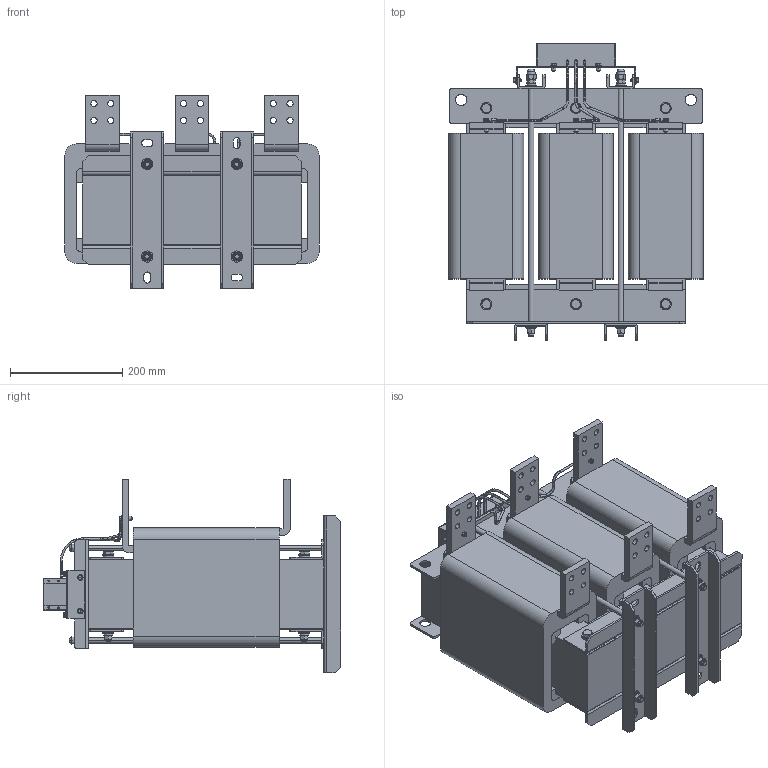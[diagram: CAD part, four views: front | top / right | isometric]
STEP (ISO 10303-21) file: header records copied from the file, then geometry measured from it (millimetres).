
FILE_DESCRIPTION (( 'STEP AP203' ), '1' );
FILE_NAME ('婰錪襝 dU_dT _ IDUDT-900_980-6.STEP', '2026-05-08T07:53:30', ( '' ), ( '' ), 'SwSTEP 2.0', 'SolidWorks 2021', '' );
FILE_SCHEMA (( 'CONFIG_CONTROL_DESIGN' ));
Length unit declared in the file: millimetre
Products named in the file (67): DVT-内母排L-60×12; DVT外母排L-60×12-100; M10ﾂﾝﾄｸ+ｵｯ+ﾆｽ_6; M10ﾂﾝﾄｸ+ｵｯ+ﾋｫﾆｽ_5; M10ﾂﾝﾄｸ+ｵｯ+ﾋｫﾆｽ_2; M5｡ﾁ10ﾂﾝﾋｨ+1ﾆｽ_7; M10ﾂﾝﾄｸ+ｵｯ+ﾆｽ_5; M10ﾂﾝﾄｸ+ｵｯ+ﾋｫﾆｽ_1; hex nut-fine pitch-style washer-grade ab gb_GB_HEXAGON_TYPE10_1 M8X1-N; 线圈-950A-DVT; 线圈-950A-DVT_5; M5｡ﾁ10ﾂﾝﾋｨ+1ﾆｽ; 950A-电容引线_2; M10℅160; M10℅470蹟裝; M10ﾂﾝﾄｸ+ｵｯ+ﾋｫﾆｽ; 线圈-950A-DVT_1; W26.5¡ÁH22¡ÁT12; Uﾐﾎｵﾗｽﾅ60｡ﾁ30｡ﾁ280; M10ﾂﾝﾄｸ+ｵｯ+ﾆｽ_3; 拉板条1×70×420; spring lock washers--normal type gb_GB_FASTENER_WASHER_SW 10; M5℅20坋趼蹟邡; M5｡ﾁ10ﾂﾝﾋｨ+1ﾆｽ_2; M10ﾂﾝﾄｸ+ｵｯ+ﾆｽ; plain washers--product grade c gb_GB_FASTENER_WASHER_SMWC 5; 950A-电容引线; 线圈-950A-DVT_4; 线圈-950A-DVT_10; 线圈-950A-DVT_9; ﾏﾂｼﾐｼ-390｡ﾁ62｡ﾁ35; M10ﾂﾝﾄｸ+ｵｯ+ﾆｽ_4; 线圈-950A-DVT_14; M5｡ﾁ20ﾂﾝﾋｨ+1ﾆｽ_2; M5｡ﾁ10ﾂﾝﾋｨ+1ﾆｽ_4; 线圈-950A-DVT_8; DVT-U形压条50×4×195; M10ﾂﾝﾄｸ+ｵｯ+ﾆｽ_2; 三相铁芯390-70-123-H420; M5｡ﾁ10ﾂﾝﾋｨ+1ﾆｽ_1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
Assembly tree (179 placements, depth 3):
  婰錪襝 dU_dT _ IDUDT-900_980-6
    三相铁芯390-70-123-H420
    拉板条1×70×420  x6
    上夹件-450×62×4-500A  x2
    ﾏﾂｼﾐｼ-390｡ﾁ62｡ﾁ35  x2
    DVT-U形压条50×4×195  x2
    Uﾐﾎｵﾗｽﾅ60｡ﾁ30｡ﾁ280  x2
    M10ﾂﾝﾄｸ+ｵｯ+ﾆｽ
      hex nut-fine pitch-style washer-grade ab gb_GB_HEXAGON_TYPE10_1 M8X1-N
      spring lock washers--normal type gb_GB_FASTENER_WASHER_SW 10
      plain washers--product grade c gb_GB_FASTENER_WASHER_SMWC 10
    M10ﾂﾝﾄｸ+ｵｯ+ﾆｽ_1
      hex nut-fine pitch-style washer-grade ab gb_GB_HEXAGON_TYPE10_1 M8X1-N
      spring lock washers--normal type gb_GB_FASTENER_WASHER_SW 10
      plain washers--product grade c gb_GB_FASTENER_WASHER_SMWC 10
    M10℅470蹟裝  x4
    M10裔簽  x4
    M10ﾂﾝﾄｸ+ｵｯ+ﾋｫﾆｽ
      hex nut-fine pitch-style washer-grade ab gb_GB_HEXAGON_TYPE10_1 M8X1-N
      spring lock washers--normal type gb_GB_FASTENER_WASHER_SW 10
      plain washers--product grade c gb_GB_FASTENER_WASHER_SMWC 10  x2
    M10ﾂﾝﾄｸ+ｵｯ+ﾋｫﾆｽ_1
      hex nut-fine pitch-style washer-grade ab gb_GB_HEXAGON_TYPE10_1 M8X1-N
      spring lock washers--normal type gb_GB_FASTENER_WASHER_SW 10
      plain washers--product grade c gb_GB_FASTENER_WASHER_SMWC 10  x2
    plain washers--product grade c gb_GB_FASTENER_WASHER_SMWC 10  x12
    M10℅160  x6
    M10ﾂﾝﾄｸ+ｵｯ+ﾋｫﾆｽ_2
      hex nut-fine pitch-style washer-grade ab gb_GB_HEXAGON_TYPE10_1 M8X1-N
      spring lock washers--normal type gb_GB_FASTENER_WASHER_SW 10
      plain washers--product grade c gb_GB_FASTENER_WASHER_SMWC 10  x2
    M10ﾂﾝﾄｸ+ｵｯ+ﾋｫﾆｽ_3
      hex nut-fine pitch-style washer-grade ab gb_GB_HEXAGON_TYPE10_1 M8X1-N
      spring lock washers--normal type gb_GB_FASTENER_WASHER_SW 10
      plain washers--product grade c gb_GB_FASTENER_WASHER_SMWC 10  x2
    M10ﾂﾝﾄｸ+ｵｯ+ﾋｫﾆｽ_4
      hex nut-fine pitch-style washer-grade ab gb_GB_HEXAGON_TYPE10_1 M8X1-N
      spring lock washers--normal type gb_GB_FASTENER_WASHER_SW 10
      plain washers--product grade c gb_GB_FASTENER_WASHER_SMWC 10  x2
    M10ﾂﾝﾄｸ+ｵｯ+ﾋｫﾆｽ_5
      hex nut-fine pitch-style washer-grade ab gb_GB_HEXAGON_TYPE10_1 M8X1-N
      spring lock washers--normal type gb_GB_FASTENER_WASHER_SW 10
      plain washers--product grade c gb_GB_FASTENER_WASHER_SMWC 10  x2
    M10ﾂﾝﾄｸ+ｵｯ+ﾆｽ_2
      hex nut-fine pitch-style washer-grade ab gb_GB_HEXAGON_TYPE10_1 M8X1-N
      spring lock washers--normal type gb_GB_FASTENER_WASHER_SW 10
      plain washers--product grade c gb_GB_FASTENER_WASHER_SMWC 10
    M10ﾂﾝﾄｸ+ｵｯ+ﾆｽ_3
      hex nut-fine pitch-style washer-grade ab gb_GB_HEXAGON_TYPE10_1 M8X1-N
      spring lock washers--normal type gb_GB_FASTENER_WASHER_SW 10
      plain washers--product grade c gb_GB_FASTENER_WASHER_SMWC 10
    M10ﾂﾝﾄｸ+ｵｯ+ﾆｽ_4
      hex nut-fine pitch-style washer-grade ab gb_GB_HEXAGON_TYPE10_1 M8X1-N
      spring lock washers--normal type gb_GB_FASTENER_WASHER_SW 10
      plain washers--product grade c gb_GB_FASTENER_WASHER_SMWC 10
    M10ﾂﾝﾄｸ+ｵｯ+ﾆｽ_5
      hex nut-fine pitch-style washer-grade ab gb_GB_HEXAGON_TYPE10_1 M8X1-N
      spring lock washers--normal type gb_GB_FASTENER_WASHER_SW 10
      plain washers--product grade c gb_GB_FASTENER_WASHER_SMWC 10
    M10ﾂﾝﾄｸ+ｵｯ+ﾆｽ_6
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Bounding box: 454 x 531 x 345.5 mm (x, y, z)
Volume: 28228660 mm3; surface area: 3130201.5 mm2
Topology: 152 solids, 152 shells, 5441 faces, 14186 edges, 9263 vertices
Faces by surface type: plane 2956, bspline 1240, cylinder 895, cone 350
Entity records: 47004 total; most frequent: CARTESIAN_POINT 11221, DIRECTION 5320, ORIENTED_EDGE 5268, EDGE_CURVE 2634, AXIS2_PLACEMENT_3D 1835, VERTEX_POINT 1716, VECTOR 1650, LINE 1650
